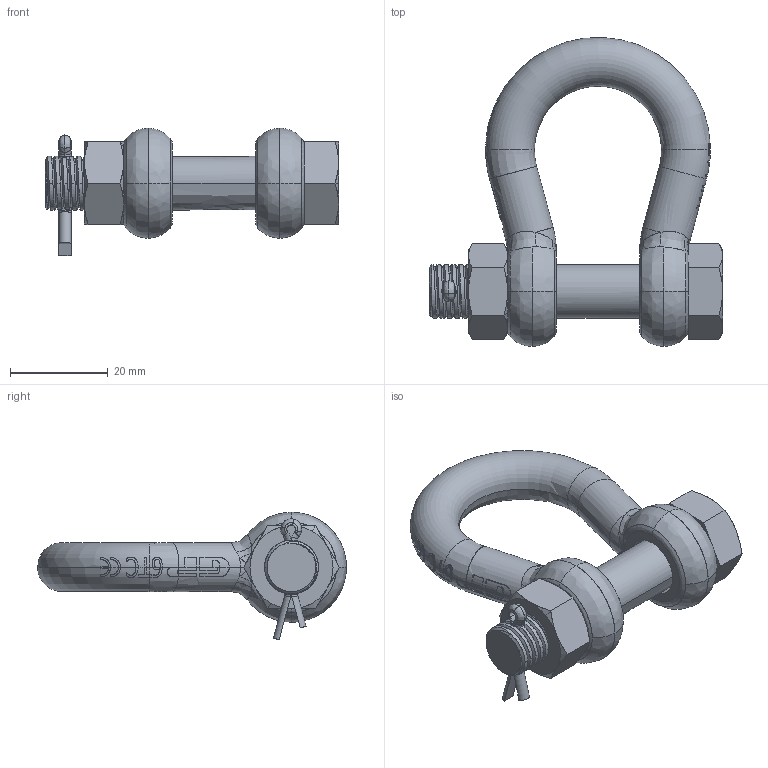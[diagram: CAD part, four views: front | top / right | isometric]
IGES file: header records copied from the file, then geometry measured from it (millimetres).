
Start section: START RECORD GO HERE.
Global section: file name: 1.igs; native system: Solidworks 2009            ion 5 Release 17 ; preprocessor: CATIA Version 5 Release 17 ; author: v.b.; organization: P4; date: 20090807.082615; units: millimetre
Bounding box: 60 x 63.22 x 26.09 mm (x, y, z)
Surface area: 10246.3 mm2 (no closed solid volume)
Topology: 0 solids, 0 shells, 416 faces, 3292 edges, 3284 vertices
Faces by surface type: revolution 161, bspline 143, plane 112
